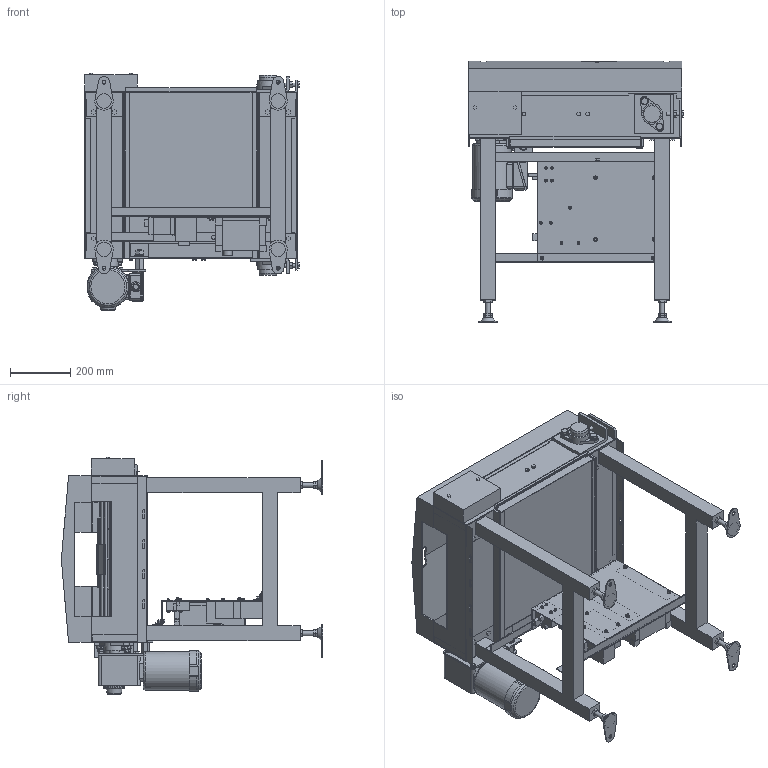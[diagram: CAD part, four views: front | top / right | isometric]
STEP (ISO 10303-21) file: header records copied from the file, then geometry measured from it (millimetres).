
FILE_DESCRIPTION( (''), '2;1');
FILE_NAME ('WEB-SLS-H-340-3-100-100-R-IVH-7.5.stp','2026-08-20T08:47:16',(''),(''),'spGate 21.9.5 (****-****-****-****)','','');
FILE_SCHEMA (('AUTOMOTIVE_DESIGN'));
Length unit declared in the file: millimetre
Products named in the file (78): WEB-SLS-H-340-3-100-100-R-IVH-7.5; TEMP_X_T-prt0; TEMP_X_T-prt1; TEMP_X_T-prt2; TEMP_X_T-prt3; TEMP_X_T-prt4; TEMP_X_T-prt5; TEMP_X_T-prt6; TEMP_X_T-prt7; TEMP_X_T-prt8; TEMP_X_T-prt9; TEMP_X_T-prt10; TEMP_X_T-prt11; TEMP_X_T-prt12; TEMP_X_T-prt13; TEMP_X_T-prt14; TEMP_X_T-prt15; TEMP_X_T-prt16; TEMP_X_T-prt17; TEMP_X_T-prt18; TEMP_X_T-prt19; TEMP_X_T-prt20; TEMP_X_T-prt21; TEMP_X_T-prt22; TEMP_X_T-prt23; TEMP_X_T-prt24; TEMP_X_T-prt25; TEMP_X_T-prt26; TEMP_X_T-prt27; TEMP_X_T-prt28; TEMP_X_T-prt29; TEMP_X_T-prt30; TEMP_X_T-prt31; TEMP_X_T-prt32; TEMP_X_T-prt33; TEMP_X_T-prt34; TEMP_X_T-prt35; TEMP_X_T-prt36; TEMP_X_T-prt37; TEMP_X_T-prt38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
Assembly tree (77 placements, depth 2):
  WEB-SLS-H-340-3-100-100-R-IVH-7.5
    TEMP_X_T-prt0
    TEMP_X_T-prt1
    TEMP_X_T-prt2
    TEMP_X_T-prt3
    TEMP_X_T-prt4
    TEMP_X_T-prt5
    TEMP_X_T-prt6
    TEMP_X_T-prt7
    TEMP_X_T-prt8
    TEMP_X_T-prt9
    TEMP_X_T-prt10
    TEMP_X_T-prt11
    TEMP_X_T-prt12
    TEMP_X_T-prt13
    TEMP_X_T-prt14
    TEMP_X_T-prt15
    TEMP_X_T-prt16
    TEMP_X_T-prt17
    TEMP_X_T-prt18
    TEMP_X_T-prt19
    TEMP_X_T-prt20
    TEMP_X_T-prt21
    TEMP_X_T-prt22
    TEMP_X_T-prt23
    TEMP_X_T-prt24
    TEMP_X_T-prt25
    TEMP_X_T-prt26
    TEMP_X_T-prt27
    TEMP_X_T-prt28
    TEMP_X_T-prt29
    TEMP_X_T-prt30
    TEMP_X_T-prt31
    TEMP_X_T-prt32
    TEMP_X_T-prt33
    TEMP_X_T-prt34
    TEMP_X_T-prt35
    TEMP_X_T-prt36
    TEMP_X_T-prt37
    TEMP_X_T-prt38
    TEMP_X_T-prt39
    TEMP_X_T-prt40
    TEMP_X_T-prt41
    TEMP_X_T-prt42
    TEMP_X_T-prt43
    TEMP_X_T-prt44
    TEMP_X_T-prt45
    TEMP_X_T-prt46
    TEMP_X_T-prt47
    TEMP_X_T-prt48
    TEMP_X_T-prt49
    TEMP_X_T-prt50
    TEMP_X_T-prt51
    TEMP_X_T-prt52
    TEMP_X_T-prt53
    TEMP_X_T-prt54
    TEMP_X_T-prt55
    TEMP_X_T-prt56
    TEMP_X_T-prt57
    TEMP_X_T-prt58
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Bounding box: 716 x 870.6 x 789.5 mm (x, y, z)
Volume: 40437879.9 mm3; surface area: 7060995.6 mm2
Topology: 77 solids, 77 shells, 2470 faces, 6482 edges, 4213 vertices
Faces by surface type: plane 1884, cylinder 467, bspline 115, sphere 4
Full cylindrical faces by diameter (mm): 4 x14, 4.15 x1, 5 x4, 6 x14, 8 x6, 8.376 x4, 8.5 x6, 9 x4, 9.2 x5, 10.5 x4, 11 x4, 11.8 x4, 12 x2, 12.2 x18, 12.5 x21, 13 x8, 14 x8, 15.4 x1, 16 x16, 18 x1, 20 x1, 21 x6, 22.2 x1, 23 x1, 24 x1, 25 x1, 28 x1, 30 x1, 30.5 x1, 34 x1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
Entity records: 132330 total; most frequent: CARTESIAN_POINT 17076, ORIENTED_EDGE 12956, DIRECTION 12475, COLOUR_RGB 9025, PRESENTATION_STYLE_ASSIGNMENT 9025, STYLED_ITEM 9025, EDGE_CURVE 6478, DRAUGHTING_PRE_DEFINED_CURVE_FONT 6478
